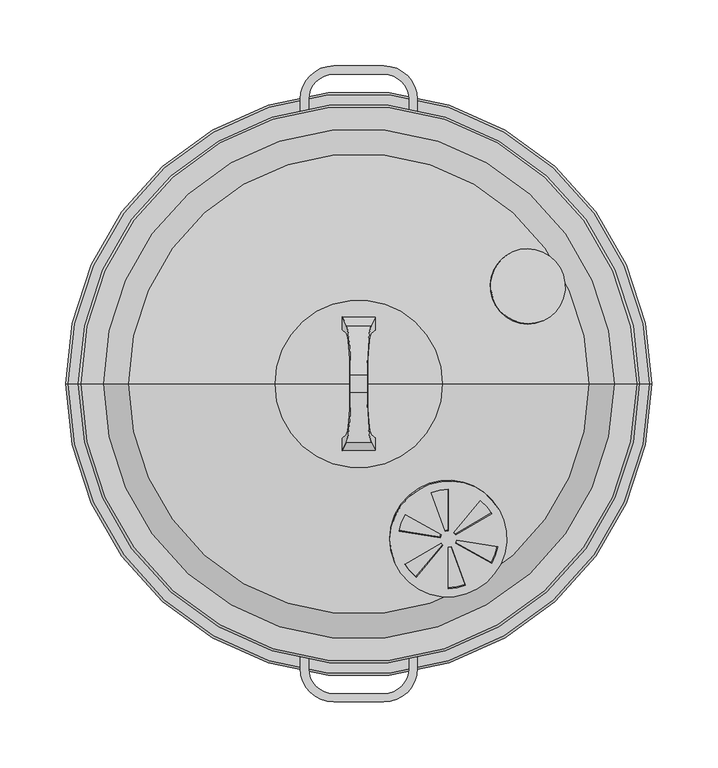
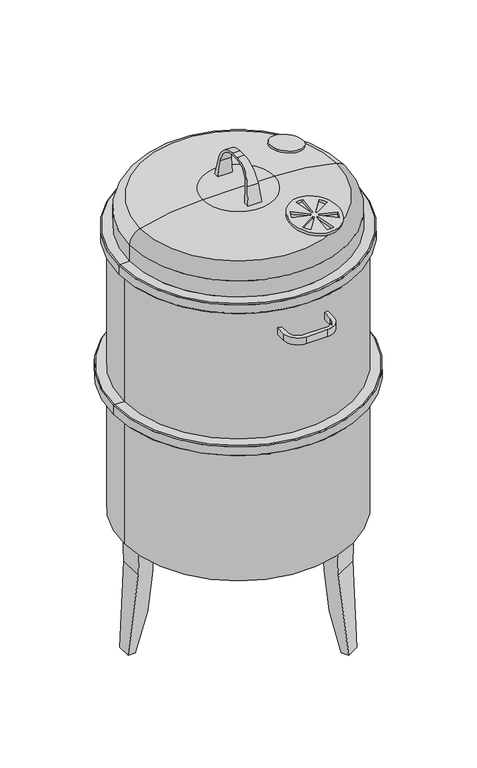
"""IFC4 building model written with IfcOpenShell, lengths in millimetres: proxy geometry, Vertical Smoker : Vertical Smoker."""

from ifc_helpers import new_model, si_unit, point, frame, frame_2d, origin, place, context, project, spatial, polyline, circle_curve, ellipse_curve, trimmed, segment, composite_curve, outline, extrude, source, transform, mapped, element, save
from ifc_brep_helpers import plane_surface, cylinder_surface, revolved_surface, advanced_brep


def specialty_equipment_ef091b00(model_context):
    return source(origin(), model_context, "Body", "SolidModel", [
        advanced_brep(
        [(197.8095352, -53.0029052, 508.4108752), (197.8095352, -53.0029052, 647.2891248), (196.2761279, -52.59203, 647.7), (196.2761279, -52.59203, 508.0), (197.8684277, -46.24203, 654.05), (197.8684277, 46.24203, 654.05), (196.2761279, 52.59203, 647.7), (196.2761279, 52.59203, 508.0), (197.8684277, 46.24203, 501.65), (197.8684277, -46.24203, 501.65), (199.4983579, 46.24203, 501.65), (199.4983579, -46.24203, 501.65), (197.9191717, 52.59203, 508.0), (197.9191717, 52.59203, 647.7), (199.4983579, 46.24203, 654.05), (199.4983579, -46.24203, 654.05)],
        [
            (0, 1),
            (1, 2),
            (2, 3),
            (3, 0),
            (2, 4, ellipse_curve(frame((0.0, 0.0, 700.29203), z_axis=(0.0, -0.7071067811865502, 0.7071067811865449), x_axis=(0.0, 0.707106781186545, 0.70710678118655)), 287.3681959, 203.2)),
            (4, 5, circle_curve(frame((0.0, 0.0, 654.05), z_axis=(0.0, 0.0, 1.0), x_axis=(0.9659258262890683, -0.2588190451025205, 0.0)), 203.2)),
            (5, 6, ellipse_curve(frame((0.0, 0.0, 700.29203), z_axis=(0.0, 0.707106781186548, 0.707106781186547), x_axis=(0.0, -0.7071067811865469, 0.7071067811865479)), 287.3681959, 203.2)),
            (6, 7),
            (7, 8, ellipse_curve(frame((0.0, 0.0, 455.40797), z_axis=(0.0, 0.707106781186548, -0.707106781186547), x_axis=(0.0, 0.707106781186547, 0.7071067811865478)), 287.3681959, 203.2)),
            (8, 9, circle_curve(frame((0.0, 0.0, 501.65), z_axis=(0.0, 0.0, -1.0), x_axis=(0.9659258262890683, -0.2588190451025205, 0.0)), 203.2)),
            (9, 3, ellipse_curve(frame((0.0, 0.0, 455.40797), z_axis=(0.0, -0.7071067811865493, -0.7071067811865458), x_axis=(0.0, -0.7071067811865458, 0.7071067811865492)), 287.3681959, 203.2)),
            (8, 10),
            (10, 11, circle_curve(frame((0.0, 0.0, 501.65), z_axis=(0.0, 0.0, -1.0), x_axis=(0.9659258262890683, -0.2588190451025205, 0.0)), 204.7875)),
            (11, 9),
            (0, 11, ellipse_curve(frame((0.0, 0.0, 455.40797), z_axis=(0.0, 0.7071067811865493, 0.7071067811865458), x_axis=(0.0, -0.7071067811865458, 0.7071067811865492)), 289.6132599, 204.7875)),
            (10, 12, ellipse_curve(frame((0.0, 0.0, 455.40797), z_axis=(0.0, -0.707106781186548, 0.707106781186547), x_axis=(0.0, 0.707106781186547, 0.7071067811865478)), 289.6132599, 204.7875)),
            (12, 13),
            (13, 14, ellipse_curve(frame((0.0, 0.0, 700.29203), z_axis=(0.0, -0.707106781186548, -0.707106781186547), x_axis=(0.0, -0.7071067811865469, 0.7071067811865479)), 289.6132599, 204.7875)),
            (14, 15, circle_curve(frame((0.0, 0.0, 654.05), z_axis=(0.0, 0.0, -1.0), x_axis=(0.9659258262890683, -0.2588190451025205, 0.0)), 204.7875)),
            (15, 1, ellipse_curve(frame((0.0, 0.0, 700.29203), z_axis=(0.0, 0.7071067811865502, -0.7071067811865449), x_axis=(0.0, 0.707106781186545, 0.70710678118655)), 289.6132599, 204.7875)),
            (4, 15),
            (14, 5),
            (13, 6),
            (12, 7),
        ],
        [
            plane_surface(frame((0.0, 0.0, 800.1), z_axis=(-0.2588190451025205, -0.9659258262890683, 0.0), x_axis=(0.9659258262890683, -0.2588190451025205, 0.0))),
            revolved_surface(polyline([(196.27612790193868, -52.592029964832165, 903.4920300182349), (196.27612790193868, -52.592029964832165, 252.20796998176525)]), (0.0, 0.0, 800.1), (0.0, 0.0, 1.0)),
            plane_surface(frame((0.0, 0.0, 501.65), z_axis=(0.0, 0.0, -1.0), x_axis=(0.9659258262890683, -0.2588190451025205, 0.0))),
            cylinder_surface(frame((0.0, 0.0, 800.1), z_axis=(0.0, 0.0, 1.0), x_axis=(0.9659258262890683, -0.2588190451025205, 0.0)), 204.7875),
            plane_surface(frame((0.0, 0.0, 654.05), z_axis=(0.0, 0.0, 1.0), x_axis=(0.9659258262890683, -0.2588190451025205, 0.0))),
            plane_surface(frame((177.8, 52.59203, 647.7), z_axis=(0.0, 0.707106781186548, 0.707106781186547), x_axis=(1.0, 0.0, 0.0))),
            plane_surface(frame((177.8, 52.59203, 508.0), z_axis=(0.0, 1.0, 0.0), x_axis=(1.0, 0.0, 0.0))),
            plane_surface(frame((177.8, 46.24203, 501.65), z_axis=(0.0, 0.707106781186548, -0.707106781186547), x_axis=(1.0, 0.0, 0.0))),
            plane_surface(frame((177.8, -53.0029052, 508.4108752), z_axis=(0.0, -0.7071067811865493, -0.7071067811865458), x_axis=(1.0, 0.0, 0.0))),
            plane_surface(frame((177.8, -46.24203, 654.05), z_axis=(0.0, -0.7071067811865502, 0.7071067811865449), x_axis=(1.0, 0.0, 0.0))),
        ],
        [
            (0, [[1, 2, 3, 4]]),
            (1, [[-3, 5, 6, 7, 8, 9, 10, 11]]),
            (2, [[-10, 12, 13, 14]]),
            (3, [[-1, 15, -13, 16, 17, 18, 19, 20]]),
            (4, [[-6, 21, -19, 22]]),
            (5, [[23, -7, -22, -18]]),
            (6, [[-23, -17, 24, -8]]),
            (7, [[-24, -16, -12, -9]]),
            (8, [[-4, -11, -14, -15]]),
            (9, [[-2, -20, -21, -5]]),
        ],
    ),
        advanced_brep(
        [(197.8095352, 53.0029052, 399.6391248), (197.8095352, 53.0029052, 260.7608752), (196.2761279, 52.59203, 260.35), (196.2761279, 52.59203, 400.05), (197.8684277, 46.24203, 254.0), (197.8684277, -46.24203, 254.0), (196.2761279, -52.59203, 260.35), (196.2761279, -52.59203, 400.05), (197.8684277, -46.24203, 406.4), (197.8684277, 46.24203, 406.4), (199.4983579, 46.24203, 254.0), (199.4983579, -46.24203, 254.0), (199.4983579, 46.24203, 406.4), (199.4983579, -46.24203, 406.4), (197.9191717, -52.59203, 400.05), (197.9191717, -52.59203, 260.35)],
        [
            (0, 1),
            (1, 2),
            (2, 3),
            (3, 0),
            (2, 4, ellipse_curve(frame((0.0, 0.0, 207.75797), z_axis=(0.0, 0.7071067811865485, -0.7071067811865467), x_axis=(0.0, 0.7071067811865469, 0.7071067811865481)), 287.3681959, 203.2)),
            (4, 5, circle_curve(frame((0.0, 0.0, 254.0), z_axis=(0.0, 0.0, -1.0), x_axis=(0.9659258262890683, -0.2588190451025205, 0.0)), 203.2)),
            (5, 6, ellipse_curve(frame((0.0, 0.0, 207.75797), z_axis=(0.0, -0.707106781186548, -0.7071067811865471), x_axis=(0.0, -0.7071067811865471, 0.7071067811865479)), 287.3681959, 203.2)),
            (6, 7),
            (7, 8, ellipse_curve(frame((0.0, 0.0, 452.64203), z_axis=(0.0, -0.7071067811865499, 0.7071067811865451), x_axis=(0.0, 0.7071067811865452, 0.7071067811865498)), 287.3681959, 203.2)),
            (8, 9, circle_curve(frame((0.0, 0.0, 406.4), z_axis=(0.0, 0.0, 1.0), x_axis=(0.9659258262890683, -0.2588190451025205, 0.0)), 203.2)),
            (9, 3, ellipse_curve(frame((0.0, 0.0, 452.64203), z_axis=(0.0, 0.7071067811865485, 0.7071067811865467), x_axis=(0.0, -0.7071067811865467, 0.7071067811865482)), 287.3681959, 203.2)),
            (4, 10),
            (10, 11, circle_curve(frame((0.0, 0.0, 254.0), z_axis=(0.0, 0.0, -1.0), x_axis=(0.9659258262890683, -0.2588190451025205, 0.0)), 204.7875)),
            (11, 5),
            (0, 12, ellipse_curve(frame((0.0, 0.0, 452.64203), z_axis=(0.0, -0.7071067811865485, -0.7071067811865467), x_axis=(0.0, -0.7071067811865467, 0.7071067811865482)), 289.6132599, 204.7875)),
            (12, 13, circle_curve(frame((0.0, 0.0, 406.4), z_axis=(0.0, 0.0, -1.0), x_axis=(0.9659258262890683, -0.2588190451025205, 0.0)), 204.7875)),
            (13, 14, ellipse_curve(frame((0.0, 0.0, 452.64203), z_axis=(0.0, 0.7071067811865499, -0.7071067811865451), x_axis=(0.0, 0.7071067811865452, 0.7071067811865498)), 289.6132599, 204.7875)),
            (14, 15),
            (15, 11, ellipse_curve(frame((0.0, 0.0, 207.75797), z_axis=(0.0, 0.707106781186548, 0.7071067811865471), x_axis=(0.0, -0.7071067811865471, 0.7071067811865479)), 289.6132599, 204.7875)),
            (10, 1, ellipse_curve(frame((0.0, 0.0, 207.75797), z_axis=(0.0, -0.7071067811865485, 0.7071067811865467), x_axis=(0.0, 0.7071067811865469, 0.7071067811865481)), 289.6132599, 204.7875)),
            (8, 13),
            (12, 9),
            (15, 6),
            (14, 7),
        ],
        [
            plane_surface(frame((0.0, 0.0, 800.1), z_axis=(-0.2588190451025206, 0.9659258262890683, 0.0), x_axis=(0.9659258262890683, 0.2588190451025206, 0.0))),
            revolved_surface(polyline([(196.27612790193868, -52.592029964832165, 655.8420300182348), (196.27612790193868, -52.592029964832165, 4.557969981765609)]), (0.0, 0.0, 800.1), (0.0, 0.0, 1.0)),
            plane_surface(frame((0.0, 0.0, 254.0), z_axis=(0.0, 0.0, -1.0), x_axis=(0.9659258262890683, -0.2588190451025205, 0.0))),
            cylinder_surface(frame((0.0, 0.0, 800.1), z_axis=(0.0, 0.0, 1.0), x_axis=(0.9659258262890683, -0.2588190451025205, 0.0)), 204.7875),
            plane_surface(frame((0.0, 0.0, 406.4), z_axis=(0.0, 0.0, 1.0), x_axis=(0.9659258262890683, -0.2588190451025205, 0.0))),
            plane_surface(frame((177.8, 53.0029052, 399.6391248), z_axis=(0.0, 0.7071067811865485, 0.7071067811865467), x_axis=(1.0, 0.0, 0.0))),
            plane_surface(frame((177.8, 46.24203, 254.0), z_axis=(0.0, 0.7071067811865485, -0.7071067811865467), x_axis=(1.0, 0.0, 0.0))),
            plane_surface(frame((177.8, -52.59203, 260.35), z_axis=(0.0, -0.707106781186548, -0.7071067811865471), x_axis=(1.0, 0.0, 0.0))),
            plane_surface(frame((177.8, -52.59203, 400.05), z_axis=(0.0, -1.0, 0.0), x_axis=(1.0, 0.0, 0.0))),
            plane_surface(frame((177.8, -46.24203, 406.4), z_axis=(0.0, -0.7071067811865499, 0.7071067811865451), x_axis=(1.0, 0.0, 0.0))),
        ],
        [
            (0, [[1, 2, 3, 4]]),
            (1, [[-3, 5, 6, 7, 8, 9, 10, 11]]),
            (2, [[-6, 12, 13, 14]]),
            (3, [[-1, 15, 16, 17, 18, 19, -13, 20]]),
            (4, [[-10, 21, -16, 22]]),
            (5, [[-4, -11, -22, -15]]),
            (6, [[-2, -20, -12, -5]]),
            (7, [[23, -7, -14, -19]]),
            (8, [[-23, -18, 24, -8]]),
            (9, [[-24, -17, -21, -9]]),
        ],
    ),
        advanced_brep(
        [(-165.1, -25.4, 203.2), (-165.1, 25.4, 203.2), (-190.5, 25.4, 203.2), (-190.5, -25.4, 203.2), (-190.5, 22.225, 152.4), (-190.5, -22.225, 152.4), (-203.2, 12.7, 0.0), (-203.2, -12.7, 0.0), (-190.5, 12.7, 0.0), (-190.5, -12.7, 0.0), (-165.1, 22.225, 152.4), (-165.1, -22.225, 152.4)],
        [
            (0, 1),
            (1, 2),
            (2, 3),
            (3, 0),
            (2, 4),
            (4, 5),
            (5, 3),
            (4, 6, ellipse_curve(frame((-1111.25, 22.225, 152.4), z_axis=(0.0, 0.998052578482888, -0.06237828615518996), x_axis=(0.0, 0.06237828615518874, 0.998052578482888)), 922.5465871, 920.75)),
            (6, 7),
            (7, 5, ellipse_curve(frame((-1111.25, -22.225, 152.4), z_axis=(0.0, -0.998052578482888, -0.06237828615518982), x_axis=(0.0, 0.06237828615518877, -0.9980525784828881)), 922.5465871, 920.75)),
            (6, 8),
            (8, 9),
            (9, 7),
            (8, 10, ellipse_curve(frame((-635.0, 22.225, 152.4), z_axis=(0.0, -0.998052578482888, 0.06237828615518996), x_axis=(0.0, -0.06237828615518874, -0.998052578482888)), 470.8168789, 469.9)),
            (10, 11),
            (11, 9, ellipse_curve(frame((-635.0, -22.225, 152.4), z_axis=(0.0, 0.998052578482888, 0.06237828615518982), x_axis=(0.0, -0.06237828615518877, 0.9980525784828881)), 470.8168789, 469.9)),
            (0, 11),
            (10, 1),
        ],
        [
            plane_surface(frame((-165.1, -25.4, 203.2), z_axis=(0.0, 0.0, 1.0), x_axis=(0.0, 1.0, 0.0))),
            plane_surface(frame((-190.5, -25.4, 203.2), z_axis=(-1.0, 0.0, 0.0), x_axis=(0.0, 1.0, 0.0))),
            revolved_surface(polyline([(-2032.0, 79.77187500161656, 152.4), (-2032.0, -79.77187500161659, 152.4)]), (-1111.25, 25.4, 152.4), (0.0, 1.0, 0.0)),
            plane_surface(frame((-203.2, -25.4, 0.0), z_axis=(0.0, 0.0, -1.0), x_axis=(0.0, 1.0, 0.0))),
            cylinder_surface(frame((-635.0, 25.4, 152.4), z_axis=(0.0, -1.0, 0.0), x_axis=(-1.0, 0.0, 0.0)), 469.9),
            plane_surface(frame((-165.1, -25.4, 152.4), z_axis=(1.0, 0.0, 0.0), x_axis=(0.0, 1.0, 0.0))),
            plane_surface(frame((-152.4, -12.7, 0.0), z_axis=(0.0, -0.998052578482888, -0.06237828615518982), x_axis=(-1.0, 0.0, 0.0))),
            plane_surface(frame((-152.4, 25.4, 203.2), z_axis=(0.0, 0.998052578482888, -0.06237828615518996), x_axis=(-1.0, 0.0, 0.0))),
        ],
        [
            (0, [[1, 2, 3, 4]]),
            (1, [[-3, 5, 6, 7]]),
            (2, [[-6, 8, 9, 10]]),
            (3, [[-9, 11, 12, 13]]),
            (4, [[-12, 14, 15, 16]]),
            (5, [[-1, 17, -15, 18]]),
            (6, [[-4, -7, -10, -13, -16, -17]]),
            (7, [[-2, -18, -14, -11, -8, -5]]),
        ],
    ),
        advanced_brep(
        [(-152.4, 0.0, 203.2), (152.4, 0.0, 203.2), (101.6, 0.0, 152.4), (-101.6, 0.0, 152.4), (0.0, 0.0, 800.1), (63.5, 0.0, 800.1), (-63.5, 0.0, 800.1), (0.0, 0.0, 152.4), (-203.2, 0.0, 203.2), (60.644514, 193.9393795, 203.2), (78.8060797, 187.296134, 203.2), (122.8001702, 161.896134, 203.2), (137.6341724, 149.4893795, 203.2), (203.2, 0.0, 203.2), (137.6341724, -149.4893795, 203.2), (122.8001702, -161.896134, 203.2), (78.8060797, -187.296134, 203.2), (60.644514, -193.9393795, 203.2), (-203.2, 0.0, 450.85), (203.2, 0.0, 450.85), (-220.6625, 0.0, 450.85), (220.6625, 0.0, 450.85), (-222.25, 0.0, 452.4375), (222.25, 0.0, 452.4375), (-222.25, 0.0, 468.3125), (222.25, 0.0, 468.3125), (-220.6625, 0.0, 469.9), (220.6625, 0.0, 469.9), (-203.2, 0.0, 469.9), (203.2, 0.0, 469.9), (-203.2, 0.0, 711.2), (203.2, 0.0, 711.2), (44.45, 198.2786864, 673.1), (38.1, 199.5961673, 673.1), (38.1, 199.5961673, 660.4), (44.45, 198.2786864, 660.4), (-38.1, 199.5961673, 673.1), (-44.45, 198.2786864, 673.1), (-44.45, 198.2786864, 660.4), (-38.1, 199.5961673, 660.4), (-44.45, -198.2786864, 673.1), (-38.1, -199.5961673, 673.1), (-38.1, -199.5961673, 660.4), (-44.45, -198.2786864, 660.4), (38.1, -199.5961673, 673.1), (44.45, -198.2786864, 673.1), (44.45, -198.2786864, 660.4), (38.1, -199.5961673, 660.4), (-211.1375, 0.0, 711.2), (211.1375, 0.0, 711.2), (-212.725, 0.0, 712.7875), (212.725, 0.0, 712.7875), (-212.725, 0.0, 728.6625), (212.725, 0.0, 728.6625), (-211.1375, 0.0, 730.25), (211.1375, 0.0, 730.25), (-193.675, 0.0, 730.25), (193.675, 0.0, 730.25), (-193.675, 0.0, 760.6397075), (193.675, 0.0, 760.6397075), (-174.9715184, 0.0, 785.1410675), (174.9715184, 0.0, 785.1410675), (19.05, 234.95, 673.1), (38.1, 215.9, 673.1), (44.45, 215.9, 673.1), (19.05, 241.3, 673.1), (-19.05, 241.3, 673.1), (-44.45, 215.9, 673.1), (-38.1, 215.9, 673.1), (-19.05, 234.95, 673.1), (19.05, -234.95, 673.1), (-19.05, -234.95, 673.1), (-38.1, -215.9, 673.1), (-44.45, -215.9, 673.1), (-19.05, -241.3, 673.1), (19.05, -241.3, 673.1), (44.45, -215.9, 673.1), (38.1, -215.9, 673.1), (19.05, 234.95, 660.4), (-19.05, 234.95, 660.4), (-38.1, 215.9, 660.4), (-44.45, 215.9, 660.4), (-19.05, 241.3, 660.4), (19.05, 241.3, 660.4), (44.45, 215.9, 660.4), (38.1, 215.9, 660.4), (19.05, -234.95, 660.4), (38.1, -215.9, 660.4), (44.45, -215.9, 660.4), (19.05, -241.3, 660.4), (-19.05, -241.3, 660.4), (-44.45, -215.9, 660.4), (-38.1, -215.9, 660.4), (-19.05, -234.95, 660.4)],
        [
            (0, 1, circle_curve(frame((0.0, 0.0, 203.2), z_axis=(0.0, 0.0, -1.0), x_axis=(1.0, 0.0, 0.0)), 152.4)),
            (1, 2, circle_curve(frame((101.6, 0.0, 203.2), z_axis=(0.0, 1.0, 0.0), x_axis=(1.0, 0.0, 0.0)), 50.8)),
            (2, 3, circle_curve(frame((0.0, 0.0, 152.4), z_axis=(0.0, 0.0, 1.0), x_axis=(1.0, 0.0, 0.0)), 101.6)),
            (3, 0, circle_curve(frame((-101.6, 0.0, 203.2), z_axis=(0.0, 1.0, 0.0), x_axis=(-1.0, 0.0, 0.0)), 50.8)),
            (1, 0, circle_curve(frame((0.0, 0.0, 203.2), z_axis=(0.0, 0.0, -1.0), x_axis=(1.0, 0.0, 0.0)), 152.4)),
            (3, 2, circle_curve(frame((0.0, 0.0, 152.4), z_axis=(0.0, 0.0, 1.0), x_axis=(1.0, 0.0, 0.0)), 101.6)),
            (4, 5),
            (5, 6, circle_curve(frame((0.0, 0.0, 800.1), z_axis=(0.0, 0.0, 1.0), x_axis=(1.0, 0.0, 0.0)), 63.5)),
            (6, 4),
            (6, 5, circle_curve(frame((0.0, 0.0, 800.1), z_axis=(0.0, 0.0, 1.0), x_axis=(1.0, 0.0, 0.0)), 63.5)),
            (2, 7),
            (7, 3),
            (0, 8),
            (8, 9, circle_curve(frame((0.0, 0.0, 203.2), z_axis=(0.0, 0.0, -1.0), x_axis=(1.0, 0.0, 0.0)), 203.2)),
            (9, 10, circle_curve(frame((0.0, 0.0, 203.2), z_axis=(0.0, 0.0, -1.0), x_axis=(1.0, 0.0, 0.0)), 203.2)),
            (10, 11, circle_curve(frame((0.0, 0.0, 203.2), z_axis=(0.0, 0.0, -1.0), x_axis=(1.0, 0.0, 0.0)), 203.2)),
            (11, 12, circle_curve(frame((0.0, 0.0, 203.2), z_axis=(0.0, 0.0, -1.0), x_axis=(1.0, 0.0, 0.0)), 203.2)),
            (12, 13, circle_curve(frame((0.0, 0.0, 203.2), z_axis=(0.0, 0.0, -1.0), x_axis=(1.0, 0.0, 0.0)), 203.2)),
            (13, 1),
            (13, 14, circle_curve(frame((0.0, 0.0, 203.2), z_axis=(0.0, 0.0, -1.0), x_axis=(1.0, 0.0, 0.0)), 203.2)),
            (14, 15, circle_curve(frame((0.0, 0.0, 203.2), z_axis=(0.0, 0.0, -1.0), x_axis=(1.0, 0.0, 0.0)), 203.2)),
            (15, 16, circle_curve(frame((0.0, 0.0, 203.2), z_axis=(0.0, 0.0, -1.0), x_axis=(1.0, 0.0, 0.0)), 203.2)),
            (16, 17, circle_curve(frame((0.0, 0.0, 203.2), z_axis=(0.0, 0.0, -1.0), x_axis=(1.0, 0.0, 0.0)), 203.2)),
            (17, 8, circle_curve(frame((0.0, 0.0, 203.2), z_axis=(0.0, 0.0, -1.0), x_axis=(1.0, 0.0, 0.0)), 203.2)),
            (18, 19, circle_curve(frame((0.0, 0.0, 450.85), z_axis=(0.0, 0.0, -1.0), x_axis=(1.0, 0.0, 0.0)), 203.2)),
            (19, 13),
            (8, 18),
            (19, 18, circle_curve(frame((0.0, 0.0, 450.85), z_axis=(0.0, 0.0, -1.0), x_axis=(1.0, 0.0, 0.0)), 203.2)),
            (18, 20),
            (20, 21, circle_curve(frame((0.0, 0.0, 450.85), z_axis=(0.0, 0.0, -1.0), x_axis=(1.0, 0.0, 0.0)), 220.6625)),
            (21, 19),
            (21, 20, circle_curve(frame((0.0, 0.0, 450.85), z_axis=(0.0, 0.0, -1.0), x_axis=(1.0, 0.0, 0.0)), 220.6625)),
            (20, 22),
            (22, 23, circle_curve(frame((0.0, 0.0, 452.4375), z_axis=(0.0, 0.0, -1.0), x_axis=(1.0, 0.0, 0.0)), 222.25)),
            (23, 21),
            (23, 22, circle_curve(frame((0.0, 0.0, 452.4375), z_axis=(0.0, 0.0, -1.0), x_axis=(1.0, 0.0, 0.0)), 222.25)),
            (22, 24),
            (24, 25, circle_curve(frame((0.0, 0.0, 468.3125), z_axis=(0.0, 0.0, -1.0), x_axis=(1.0, 0.0, 0.0)), 222.25)),
            (25, 23),
            (25, 24, circle_curve(frame((0.0, 0.0, 468.3125), z_axis=(0.0, 0.0, -1.0), x_axis=(1.0, 0.0, 0.0)), 222.25)),
            (24, 26),
            (26, 27, circle_curve(frame((0.0, 0.0, 469.9), z_axis=(0.0, 0.0, -1.0), x_axis=(1.0, 0.0, 0.0)), 220.6625)),
            (27, 25),
            (27, 26, circle_curve(frame((0.0, 0.0, 469.9), z_axis=(0.0, 0.0, -1.0), x_axis=(1.0, 0.0, 0.0)), 220.6625)),
            (26, 28),
            (28, 29, circle_curve(frame((0.0, 0.0, 469.9), z_axis=(0.0, 0.0, -1.0), x_axis=(1.0, 0.0, 0.0)), 203.2)),
            (29, 27),
            (29, 28, circle_curve(frame((0.0, 0.0, 469.9), z_axis=(0.0, 0.0, -1.0), x_axis=(1.0, 0.0, 0.0)), 203.2)),
            (28, 30),
            (30, 31, circle_curve(frame((0.0, 0.0, 711.2), z_axis=(0.0, 0.0, -1.0), x_axis=(1.0, 0.0, 0.0)), 203.2)),
            (31, 29),
            (32, 33, circle_curve(frame((0.0, 0.0, 673.1), z_axis=(0.0, 0.0, 1.0), x_axis=(1.0, 0.0, 0.0)), 203.2)),
            (33, 34),
            (34, 35, circle_curve(frame((0.0, 0.0, 660.4), z_axis=(0.0, 0.0, -1.0), x_axis=(1.0, 0.0, 0.0)), 203.2)),
            (35, 32),
            (36, 37, circle_curve(frame((0.0, 0.0, 673.1), z_axis=(0.0, 0.0, 1.0), x_axis=(1.0, 0.0, 0.0)), 203.2)),
            (37, 38),
            (38, 39, circle_curve(frame((0.0, 0.0, 660.4), z_axis=(0.0, 0.0, -1.0), x_axis=(1.0, 0.0, 0.0)), 203.2)),
            (39, 36),
            (31, 30, circle_curve(frame((0.0, 0.0, 711.2), z_axis=(0.0, 0.0, -1.0), x_axis=(1.0, 0.0, 0.0)), 203.2)),
            (40, 41, circle_curve(frame((0.0, 0.0, 673.1), z_axis=(0.0, 0.0, 1.0), x_axis=(1.0, 0.0, 0.0)), 203.2)),
            (41, 42),
            (42, 43, circle_curve(frame((0.0, 0.0, 660.4), z_axis=(0.0, 0.0, -1.0), x_axis=(1.0, 0.0, 0.0)), 203.2)),
            (43, 40),
            (44, 45, circle_curve(frame((0.0, 0.0, 673.1), z_axis=(0.0, 0.0, 1.0), x_axis=(1.0, 0.0, 0.0)), 203.2)),
            (45, 46),
            (46, 47, circle_curve(frame((0.0, 0.0, 660.4), z_axis=(0.0, 0.0, -1.0), x_axis=(1.0, 0.0, 0.0)), 203.2)),
            (47, 44),
            (30, 48),
            (48, 49, circle_curve(frame((0.0, 0.0, 711.2), z_axis=(0.0, 0.0, -1.0), x_axis=(1.0, 0.0, 0.0)), 211.1375)),
            (49, 31),
            (49, 48, circle_curve(frame((0.0, 0.0, 711.2), z_axis=(0.0, 0.0, -1.0), x_axis=(1.0, 0.0, 0.0)), 211.1375)),
            (48, 50),
            (50, 51, circle_curve(frame((0.0, 0.0, 712.7875), z_axis=(0.0, 0.0, -1.0), x_axis=(1.0, 0.0, 0.0)), 212.725)),
            (51, 49),
            (51, 50, circle_curve(frame((0.0, 0.0, 712.7875), z_axis=(0.0, 0.0, -1.0), x_axis=(1.0, 0.0, 0.0)), 212.725)),
            (50, 52),
            (52, 53, circle_curve(frame((0.0, 0.0, 728.6625), z_axis=(0.0, 0.0, -1.0), x_axis=(1.0, 0.0, 0.0)), 212.725)),
            (53, 51),
            (53, 52, circle_curve(frame((0.0, 0.0, 728.6625), z_axis=(0.0, 0.0, -1.0), x_axis=(1.0, 0.0, 0.0)), 212.725)),
            (52, 54),
            (54, 55, circle_curve(frame((0.0, 0.0, 730.25), z_axis=(0.0, 0.0, -1.0), x_axis=(1.0, 0.0, 0.0)), 211.1375)),
            (55, 53),
            (55, 54, circle_curve(frame((0.0, 0.0, 730.25), z_axis=(0.0, 0.0, -1.0), x_axis=(1.0, 0.0, 0.0)), 211.1375)),
            (54, 56),
            (56, 57, circle_curve(frame((0.0, 0.0, 730.25), z_axis=(0.0, 0.0, -1.0), x_axis=(1.0, 0.0, 0.0)), 193.675)),
            (57, 55),
            (57, 56, circle_curve(frame((0.0, 0.0, 730.25), z_axis=(0.0, 0.0, -1.0), x_axis=(1.0, 0.0, 0.0)), 193.675)),
            (56, 58),
            (58, 59, circle_curve(frame((0.0, 0.0, 760.6397075), z_axis=(0.0, 0.0, -1.0), x_axis=(1.0, 0.0, 0.0)), 193.675)),
            (59, 57),
            (59, 58, circle_curve(frame((0.0, 0.0, 760.6397075), z_axis=(0.0, 0.0, -1.0), x_axis=(1.0, 0.0, 0.0)), 193.675)),
            (58, 60, circle_curve(frame((-168.275, 0.0, 760.6397075), z_axis=(0.0, 1.0, 0.0), x_axis=(-1.0, 0.0, 0.0)), 25.4)),
            (60, 61, circle_curve(frame((0.0, 0.0, 785.1410675), z_axis=(0.0, 0.0, -1.0), x_axis=(1.0, 0.0, 0.0)), 174.9715184)),
            (61, 59, circle_curve(frame((168.275, 0.0, 760.6397075), z_axis=(0.0, 1.0, 0.0), x_axis=(1.0, 0.0, 0.0)), 25.4)),
            (61, 60, circle_curve(frame((0.0, 0.0, 785.1410675), z_axis=(0.0, 0.0, -1.0), x_axis=(1.0, 0.0, 0.0)), 174.9715184)),
            (5, 61, circle_curve(frame((63.5, 0.0, 377.2867724), z_axis=(0.0, 1.0, 0.0), x_axis=(1.0, 0.0, 0.0)), 422.8132276)),
            (60, 6, circle_curve(frame((-63.5, 0.0, 377.2867724), z_axis=(0.0, 1.0, 0.0), x_axis=(-1.0, 0.0, 0.0)), 422.8132276)),
            (62, 63, circle_curve(frame((19.05, 215.9, 673.1), z_axis=(0.0, 0.0, -1.0), x_axis=(1.0, 0.0, 0.0)), 19.05)),
            (63, 33),
            (32, 64),
            (64, 65, circle_curve(frame((19.05, 215.9, 673.1), z_axis=(0.0, 0.0, 1.0), x_axis=(1.0, 0.0, 0.0)), 25.4)),
            (65, 66),
            (66, 67, circle_curve(frame((-19.05, 215.9, 673.1), z_axis=(0.0, 0.0, 1.0), x_axis=(1.0, 0.0, 0.0)), 25.4)),
            (67, 37),
            (36, 68),
            (68, 69, circle_curve(frame((-19.05, 215.9, 673.1), z_axis=(0.0, 0.0, -1.0), x_axis=(1.0, 0.0, 0.0)), 19.05)),
            (69, 62),
            (70, 71),
            (71, 72, circle_curve(frame((-19.05, -215.9, 673.1), z_axis=(0.0, 0.0, -1.0), x_axis=(1.0, 0.0, 0.0)), 19.05)),
            (72, 41),
            (40, 73),
            (73, 74, circle_curve(frame((-19.05, -215.9, 673.1), z_axis=(0.0, 0.0, 1.0), x_axis=(1.0, 0.0, 0.0)), 25.4)),
            (74, 75),
            (75, 76, circle_curve(frame((19.05, -215.9, 673.1), z_axis=(0.0, 0.0, 1.0), x_axis=(1.0, 0.0, 0.0)), 25.4)),
            (76, 45),
            (44, 77),
            (77, 70, circle_curve(frame((19.05, -215.9, 673.1), z_axis=(0.0, 0.0, -1.0), x_axis=(1.0, 0.0, 0.0)), 19.05)),
            (78, 79),
            (79, 80, circle_curve(frame((-19.05, 215.9, 660.4), z_axis=(0.0, 0.0, 1.0), x_axis=(1.0, 0.0, 0.0)), 19.05)),
            (80, 39),
            (38, 81),
            (81, 82, circle_curve(frame((-19.05, 215.9, 660.4), z_axis=(0.0, 0.0, -1.0), x_axis=(1.0, 0.0, 0.0)), 25.4)),
            (82, 83),
            (83, 84, circle_curve(frame((19.05, 215.9, 660.4), z_axis=(0.0, 0.0, -1.0), x_axis=(1.0, 0.0, 0.0)), 25.4)),
            (84, 35),
            (34, 85),
            (85, 78, circle_curve(frame((19.05, 215.9, 660.4), z_axis=(0.0, 0.0, 1.0), x_axis=(1.0, 0.0, 0.0)), 19.05)),
            (86, 87, circle_curve(frame((19.05, -215.9, 660.4), z_axis=(0.0, 0.0, 1.0), x_axis=(1.0, 0.0, 0.0)), 19.05)),
            (87, 47),
            (46, 88),
            (88, 89, circle_curve(frame((19.05, -215.9, 660.4), z_axis=(0.0, 0.0, -1.0), x_axis=(1.0, 0.0, 0.0)), 25.4)),
            (89, 90),
            (90, 91, circle_curve(frame((-19.05, -215.9, 660.4), z_axis=(0.0, 0.0, -1.0), x_axis=(1.0, 0.0, 0.0)), 25.4)),
            (91, 43),
            (42, 92),
            (92, 93, circle_curve(frame((-19.05, -215.9, 660.4), z_axis=(0.0, 0.0, 1.0), x_axis=(1.0, 0.0, 0.0)), 19.05)),
            (93, 86),
            (62, 78),
            (85, 63),
            (84, 64),
            (83, 65),
            (82, 66),
            (81, 67),
            (80, 68),
            (79, 69),
            (70, 86),
            (93, 71),
            (92, 72),
            (91, 73),
            (90, 74),
            (89, 75),
            (88, 76),
            (87, 77),
        ],
        [
            revolved_surface(trimmed(ellipse_curve(frame((101.6, 0.0, 203.2), z_axis=(0.0, -1.0, 0.0), x_axis=(1.0, 0.0, 0.0)), 50.8, 50.8), [point((101.6, 0.0, 152.4))], [point((152.4, 0.0, 203.2))], True, "CARTESIAN"), (0.0, 0.0, 800.1), (0.0, 0.0, 1.0)),
            plane_surface(frame((0.0, 0.0, 800.1), z_axis=(0.0, 0.0, 1.0), x_axis=(1.0, 0.0, 0.0))),
            plane_surface(frame((0.0, 0.0, 152.4), z_axis=(0.0, 0.0, -1.0), x_axis=(1.0, 0.0, 0.0))),
            plane_surface(frame((0.0, 0.0, 203.2), z_axis=(0.0, 0.0, -1.0), x_axis=(1.0, 0.0, 0.0))),
            cylinder_surface(frame((0.0, 0.0, 800.1), z_axis=(0.0, 0.0, 1.0), x_axis=(1.0, 0.0, 0.0)), 203.2),
            plane_surface(frame((0.0, 0.0, 450.85), z_axis=(0.0, 0.0, -1.0), x_axis=(1.0, 0.0, 0.0))),
            revolved_surface(polyline([(220.6625, 0.0, 450.85), (222.25, 0.0, 452.4375)]), (0.0, 0.0, 800.1), (0.0, 0.0, 1.0)),
            cylinder_surface(frame((0.0, 0.0, 800.1), z_axis=(0.0, 0.0, 1.0), x_axis=(1.0, 0.0, 0.0)), 222.25),
            revolved_surface(polyline([(222.25, 0.0, 468.3125), (220.6625, 0.0, 469.9)]), (0.0, 0.0, 800.1), (0.0, 0.0, 1.0)),
            plane_surface(frame((0.0, 0.0, 469.9), z_axis=(0.0, 0.0, 1.0), x_axis=(1.0, 0.0, 0.0))),
            plane_surface(frame((0.0, 0.0, 711.2), z_axis=(0.0, 0.0, -1.0), x_axis=(1.0, 0.0, 0.0))),
            revolved_surface(polyline([(211.1375, 0.0, 711.2), (212.725, 0.0, 712.7875)]), (0.0, 0.0, 800.1), (0.0, 0.0, 1.0)),
            cylinder_surface(frame((0.0, 0.0, 800.1), z_axis=(0.0, 0.0, 1.0), x_axis=(1.0, 0.0, 0.0)), 212.725),
            revolved_surface(polyline([(212.725, 0.0, 728.6625), (211.1375, 0.0, 730.25)]), (0.0, 0.0, 800.1), (0.0, 0.0, 1.0)),
            plane_surface(frame((0.0, 0.0, 730.25), z_axis=(0.0, 0.0, 1.0), x_axis=(1.0, 0.0, 0.0))),
            cylinder_surface(frame((0.0, 0.0, 800.1), z_axis=(0.0, 0.0, 1.0), x_axis=(1.0, 0.0, 0.0)), 193.675),
            revolved_surface(trimmed(ellipse_curve(frame((168.275, 0.0, 760.6397075), z_axis=(0.0, -1.0, 0.0), x_axis=(1.0, 0.0, 0.0)), 25.4, 25.4), [point((193.675, 0.0, 760.6397075))], [point((174.9715184, 0.0, 785.1410675))], True, "CARTESIAN"), (0.0, 0.0, 800.1), (0.0, 0.0, 1.0)),
            revolved_surface(trimmed(ellipse_curve(frame((63.5, 0.0, 377.2867724), z_axis=(0.0, -1.0, 0.0), x_axis=(1.0, 0.0, 0.0)), 422.8132276, 422.8132276), [point((174.9715184, 0.0, 785.1410675))], [point((63.5, 0.0, 800.1))], True, "CARTESIAN"), (0.0, 0.0, 800.1), (0.0, 0.0, 1.0)),
            plane_surface(frame((38.1, 215.9, 673.1), z_axis=(0.0, 0.0, 1.0), x_axis=(0.0, -1.0, 0.0))),
            plane_surface(frame((38.1, 215.9, 660.4), z_axis=(0.0, 0.0, -1.0), x_axis=(0.0, 1.0, 0.0))),
            revolved_surface(polyline([(38.1, 215.9, 660.4), (38.1, 215.9, 673.1)]), (19.05, 215.9, 660.4), (0.0, 0.0, -1.0)),
            plane_surface(frame((38.1, 215.9, 673.1), z_axis=(-1.0, 0.0, 0.0), x_axis=(0.0, 0.0, -1.0))),
            plane_surface(frame((44.45, 190.5, 673.1), z_axis=(1.0, 0.0, 0.0), x_axis=(0.0, 0.0, -1.0))),
            cylinder_surface(frame((19.05, 215.9, 660.4), z_axis=(0.0, 0.0, 1.0), x_axis=(1.0, 0.0, 0.0)), 25.4),
            plane_surface(frame((19.05, 241.3, 673.1), z_axis=(0.0, 1.0, 0.0), x_axis=(0.0, 0.0, -1.0))),
            cylinder_surface(frame((-19.05, 215.9, 660.4), z_axis=(0.0, 0.0, 1.0), x_axis=(1.0, 0.0, 0.0)), 25.4),
            plane_surface(frame((-44.45, 215.9, 673.1), z_axis=(-1.0, 0.0, 0.0), x_axis=(0.0, 0.0, -1.0))),
            plane_surface(frame((-38.1, 190.5, 673.1), z_axis=(1.0, 0.0, 0.0), x_axis=(0.0, 0.0, -1.0))),
            revolved_surface(polyline([(0.0, 215.9, 660.4), (0.0, 215.9, 673.1)]), (-19.05, 215.9, 660.4), (0.0, 0.0, -1.0)),
            plane_surface(frame((-19.05, 234.95, 673.1), z_axis=(0.0, -1.0, 0.0), x_axis=(0.0, 0.0, -1.0))),
            plane_surface(frame((19.05, -234.95, 673.1), z_axis=(0.0, 1.0, 0.0), x_axis=(0.0, 0.0, -1.0))),
            revolved_surface(polyline([(0.0, -215.9, 660.4), (0.0, -215.9, 673.1)]), (-19.05, -215.9, 660.4), (0.0, 0.0, -1.0)),
            plane_surface(frame((-38.1, -215.9, 673.1), z_axis=(1.0, 0.0, 0.0), x_axis=(0.0, 0.0, -1.0))),
            plane_surface(frame((-44.45, -190.5, 673.1), z_axis=(-1.0, 0.0, 0.0), x_axis=(0.0, 0.0, -1.0))),
            cylinder_surface(frame((-19.05, -215.9, 660.4), z_axis=(0.0, 0.0, 1.0), x_axis=(1.0, 0.0, 0.0)), 25.4),
            plane_surface(frame((-19.05, -241.3, 673.1), z_axis=(0.0, -1.0, 0.0), x_axis=(0.0, 0.0, -1.0))),
            cylinder_surface(frame((19.05, -215.9, 660.4), z_axis=(0.0, 0.0, 1.0), x_axis=(1.0, 0.0, 0.0)), 25.4),
            plane_surface(frame((44.45, -215.9, 673.1), z_axis=(1.0, 0.0, 0.0), x_axis=(0.0, 0.0, -1.0))),
            plane_surface(frame((38.1, -190.5, 673.1), z_axis=(-1.0, 0.0, 0.0), x_axis=(0.0, 0.0, -1.0))),
            revolved_surface(polyline([(38.1, -215.9, 660.4), (38.1, -215.9, 673.1)]), (19.05, -215.9, 660.4), (0.0, 0.0, -1.0)),
        ],
        [
            (0, [[1, 2, 3, 4]]),
            (0, [[-2, 5, -4, 6]]),
            (1, [[7, 8, 9]]),
            (1, [[-7, -9, 10]]),
            (2, [[-3, 11, 12]]),
            (2, [[-6, -12, -11]]),
            (3, [[-1, 13, 14, 15, 16, 17, 18, 19]]),
            (3, [[-5, -19, 20, 21, 22, 23, 24, -13]]),
            (4, [[25, 26, -18, -17, -16, -15, -14, 27]]),
            (4, [[-26, 28, -27, -24, -23, -22, -21, -20]]),
            (5, [[-25, 29, 30, 31]]),
            (5, [[-28, -31, 32, -29]]),
            (6, [[-30, 33, 34, 35]]),
            (6, [[-32, -35, 36, -33]]),
            (7, [[-34, 37, 38, 39]]),
            (7, [[-36, -39, 40, -37]]),
            (8, [[-38, 41, 42, 43]]),
            (8, [[-40, -43, 44, -41]]),
            (9, [[-42, 45, 46, 47]]),
            (9, [[-44, -47, 48, -45]]),
            (4, [[-46, 49, 50, 51], [52, 53, 54, 55], [56, 57, 58, 59]]),
            (4, [[-48, -51, 60, -49], [61, 62, 63, 64], [65, 66, 67, 68]]),
            (10, [[-50, 69, 70, 71]]),
            (10, [[-60, -71, 72, -69]]),
            (11, [[-70, 73, 74, 75]]),
            (11, [[-72, -75, 76, -73]]),
            (12, [[-74, 77, 78, 79]]),
            (12, [[-76, -79, 80, -77]]),
            (13, [[-78, 81, 82, 83]]),
            (13, [[-80, -83, 84, -81]]),
            (14, [[-82, 85, 86, 87]]),
            (14, [[-84, -87, 88, -85]]),
            (15, [[-86, 89, 90, 91]]),
            (15, [[-88, -91, 92, -89]]),
            (16, [[-90, 93, 94, 95]]),
            (16, [[-92, -95, 96, -93]]),
            (17, [[-8, 97, -94, 98]]),
            (17, [[-10, -98, -96, -97]]),
            (18, [[99, 100, -52, 101, 102, 103, 104, 105, -56, 106, 107, 108]]),
            (18, [[109, 110, 111, -61, 112, 113, 114, 115, 116, -65, 117, 118]]),
            (19, [[119, 120, 121, -58, 122, 123, 124, 125, 126, -54, 127, 128]]),
            (19, [[129, 130, -67, 131, 132, 133, 134, 135, -63, 136, 137, 138]]),
            (20, [[-99, 139, -128, 140]]),
            (21, [[-140, -127, -53, -100]]),
            (22, [[141, -101, -55, -126]]),
            (23, [[-102, -141, -125, 142]]),
            (24, [[-103, -142, -124, 143]]),
            (25, [[-104, -143, -123, 144]]),
            (26, [[-144, -122, -57, -105]]),
            (27, [[145, -106, -59, -121]]),
            (28, [[-107, -145, -120, 146]]),
            (29, [[-108, -146, -119, -139]]),
            (30, [[-109, 147, -138, 148]]),
            (31, [[-110, -148, -137, 149]]),
            (32, [[-149, -136, -62, -111]]),
            (33, [[150, -112, -64, -135]]),
            (34, [[-113, -150, -134, 151]]),
            (35, [[-114, -151, -133, 152]]),
            (36, [[-115, -152, -132, 153]]),
            (37, [[-153, -131, -66, -116]]),
            (38, [[154, -117, -68, -130]]),
            (39, [[-118, -154, -129, -147]]),
        ],
    ),
        advanced_brep(
        [(60.5529547, 155.6807942, 203.2), (104.5470453, 130.2807942, 203.2), (117.2470453, 152.2778394, 203.2), (73.2529547, 177.6778394, 203.2), (114.4974146, 153.8653394, 152.4), (76.0025854, 176.0903394, 152.4), (112.5985226, 169.626362, 0.0), (90.6014774, 182.326362, 0.0), (106.2485226, 158.6278394, 0.0), (84.2514774, 171.3278394, 0.0), (101.7974146, 131.8682942, 152.4), (63.3025854, 154.0932942, 152.4)],
        [
            (0, 1),
            (1, 2),
            (2, 3),
            (3, 0),
            (2, 4),
            (4, 5),
            (5, 3),
            (4, 6, ellipse_curve(frame((574.8724146, 951.25823, 152.4), z_axis=(0.8643388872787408, -0.4990262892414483, -0.06237828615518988), x_axis=(0.05402118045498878, -0.03118914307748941, 0.9980525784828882)), 922.5465871, 920.75)),
            (6, 7),
            (7, 5, ellipse_curve(frame((536.3775854, 973.48323, 152.4), z_axis=(-0.8643388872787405, 0.49902628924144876, -0.06237828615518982), x_axis=(0.0540211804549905, -0.031189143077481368, -0.9980525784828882)), 922.5465871, 920.75)),
            (6, 8),
            (8, 9),
            (9, 7),
            (8, 10, ellipse_curve(frame((336.7474146, 538.8136314, 152.4), z_axis=(-0.8643388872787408, 0.4990262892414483, 0.06237828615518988), x_axis=(-0.05402118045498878, 0.03118914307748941, -0.9980525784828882)), 470.8168789, 469.9)),
            (10, 11),
            (11, 9, ellipse_curve(frame((298.2525854, 561.0386314, 152.4), z_axis=(0.8643388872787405, -0.49902628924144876, 0.06237828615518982), x_axis=(-0.0540211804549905, 0.031189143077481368, 0.9980525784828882)), 470.8168789, 469.9)),
            (0, 11),
            (10, 1),
        ],
        [
            plane_surface(frame((60.5529547, 155.6807942, 203.2), z_axis=(0.0, 0.0, 1.0000000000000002), x_axis=(0.86602540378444, -0.49999999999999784, 0.0))),
            plane_surface(frame((73.2529547, 177.6778394, 203.2), z_axis=(0.49999999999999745, 0.8660254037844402, 0.0), x_axis=(0.8660254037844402, -0.49999999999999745, 0.0))),
            revolved_surface(polyline([(1085.0844702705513, 1719.877683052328, 152.4), (946.9155297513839, 1799.6495580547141, 152.4)]), (577.6220453, 949.67073, 152.4), (0.8660254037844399, -0.4999999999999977, 0.0)),
            plane_surface(frame((79.6029547, 188.676362, 0.0), z_axis=(0.0, 0.0, -1.0), x_axis=(0.8660254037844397, -0.4999999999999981, 0.0))),
            cylinder_surface(frame((339.4970453, 537.2261314, 152.4), z_axis=(-0.8660254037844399, 0.4999999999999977, 0.0), x_axis=(0.4999999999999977, 0.8660254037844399, 0.0)), 469.9),
            plane_surface(frame((60.5529547, 155.6807942, 152.4), z_axis=(-0.49999999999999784, -0.86602540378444, 0.0), x_axis=(0.86602540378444, -0.49999999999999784, 0.0))),
            plane_surface(frame((65.2014774, 138.3322715, 0.0), z_axis=(-0.8643388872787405, 0.49902628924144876, -0.06237828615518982), x_axis=(0.5000000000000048, 0.8660254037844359, 0.0))),
            plane_surface(frame((98.1970453, 119.2822715, 203.2), z_axis=(0.8643388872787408, -0.4990262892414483, -0.06237828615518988), x_axis=(0.5000000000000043, 0.8660254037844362, 0.0))),
        ],
        [
            (0, [[1, 2, 3, 4]]),
            (1, [[-3, 5, 6, 7]]),
            (2, [[-6, 8, 9, 10]]),
            (3, [[-9, 11, 12, 13]]),
            (4, [[-12, 14, 15, 16]]),
            (5, [[-1, 17, -15, 18]]),
            (6, [[-4, -7, -10, -13, -16, -17]]),
            (7, [[-2, -18, -14, -11, -8, -5]]),
        ],
    ),
        advanced_brep(
        [(104.5470453, -130.2807942, 203.2), (60.5529547, -155.6807942, 203.2), (73.2529547, -177.6778394, 203.2), (117.2470453, -152.2778394, 203.2), (76.0025854, -176.0903394, 152.4), (114.4974146, -153.8653394, 152.4), (90.6014774, -182.326362, 0.0), (112.5985226, -169.626362, 0.0), (84.2514774, -171.3278394, 0.0), (106.2485226, -158.6278394, 0.0), (63.3025854, -154.0932942, 152.4), (101.7974146, -131.8682942, 152.4)],
        [
            (0, 1),
            (1, 2),
            (2, 3),
            (3, 0),
            (2, 4),
            (4, 5),
            (5, 3),
            (4, 6, ellipse_curve(frame((536.3775854, -973.48323, 152.4), z_axis=(-0.8643388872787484, -0.4990262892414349, -0.062378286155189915), x_axis=(-0.05402118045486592, -0.03118914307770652, 0.9980525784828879)), 922.5465871, 920.75)),
            (6, 7),
            (7, 5, ellipse_curve(frame((574.8724146, -951.25823, 152.4), z_axis=(0.8643388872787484, 0.49902628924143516, -0.06237828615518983), x_axis=(-0.054021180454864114, -0.031189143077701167, -0.9980525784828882)), 922.5465871, 920.75)),
            (6, 8),
            (8, 9),
            (9, 7),
            (8, 10, ellipse_curve(frame((298.2525854, -561.0386314, 152.4), z_axis=(0.8643388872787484, 0.4990262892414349, 0.062378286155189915), x_axis=(0.05402118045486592, 0.03118914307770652, -0.9980525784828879)), 470.8168789, 469.9)),
            (10, 11),
            (11, 9, ellipse_curve(frame((336.7474146, -538.8136314, 152.4), z_axis=(-0.8643388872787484, -0.49902628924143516, 0.06237828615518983), x_axis=(0.054021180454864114, 0.031189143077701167, 0.9980525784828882)), 470.8168789, 469.9)),
            (0, 11),
            (10, 1),
        ],
        [
            plane_surface(frame((104.5470453, -130.2807942, 203.2), z_axis=(0.0, 0.0, 1.0), x_axis=(-0.8660254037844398, -0.4999999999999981, 0.0))),
            plane_surface(frame((117.2470453, -152.2778394, 203.2), z_axis=(0.499999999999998, -0.8660254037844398, 0.0), x_axis=(-0.8660254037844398, -0.499999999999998, 0.0))),
            revolved_surface(polyline([(946.9155297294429, -1799.6495580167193, 152.4), (1085.0844702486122, -1719.877683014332, 152.4)]), (533.6279547, -975.07073, 152.4), (-0.8660254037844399, -0.4999999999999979, 0.0)),
            plane_surface(frame((123.5970453, -163.276362, 0.0), z_axis=(0.0, 0.0, -1.0), x_axis=(-0.8660254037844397, -0.4999999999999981, 0.0))),
            cylinder_surface(frame((295.5029547, -562.6261314, 152.4), z_axis=(0.8660254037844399, 0.4999999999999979, 0.0), x_axis=(0.4999999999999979, -0.8660254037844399, 0.0)), 469.9),
            plane_surface(frame((104.5470453, -130.2807942, 152.4), z_axis=(-0.4999999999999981, 0.8660254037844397, 0.0), x_axis=(-0.8660254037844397, -0.4999999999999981, 0.0))),
            plane_surface(frame((87.1985226, -125.6322715, 0.0), z_axis=(0.8643388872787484, 0.49902628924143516, -0.06237828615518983), x_axis=(0.4999999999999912, -0.8660254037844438, 0.0))),
            plane_surface(frame((54.2029547, -144.6822715, 203.2), z_axis=(-0.8643388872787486, -0.499026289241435, -0.06237828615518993), x_axis=(0.49999999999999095, -0.866025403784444, 0.0))),
        ],
        [
            (0, [[1, 2, 3, 4]]),
            (1, [[-3, 5, 6, 7]]),
            (2, [[-6, 8, 9, 10]]),
            (3, [[-9, 11, 12, 13]]),
            (4, [[-12, 14, 15, 16]]),
            (5, [[-1, 17, -15, 18]]),
            (6, [[-4, -7, -10, -13, -16, -17]]),
            (7, [[-2, -18, -14, -11, -8, -5]]),
        ],
    ),
        extrude(outline(composite_curve([segment(trimmed(circle_curve(frame_2d((-1e-07, -28.575)), 28.575), [point((0.0, -57.15))], [point((0.0, 0.0))], False, "CARTESIAN"), True, "CONTINUOUS"), segment(trimmed(circle_curve(frame_2d((-1e-07, -28.575)), 28.575), [point((0.0, 0.0))], [point((0.0, -57.15))], False, "CARTESIAN"), True, "CONTINUOUS")], self_intersect=False)), frame((152.2631845, 87.9091905, 786.9421524), z_axis=(0.15038373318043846, 0.08682408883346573, 0.9848077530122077), x_axis=(0.49999999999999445, -0.8660254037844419, 0.0)), (0.0, 0.0, 1.0), 3.302),
        extrude(outline(composite_curve([segment(trimmed(circle_curve(frame_2d((0.0, -44.45)), 44.45), [point((0.0, -88.9))], [point((0.0, 0.0))], False, "CARTESIAN"), True, "CONTINUOUS"), segment(trimmed(circle_curve(frame_2d((0.0, -44.45)), 44.45), [point((0.0, 0.0))], [point((0.0, -88.9))], False, "CARTESIAN"), True, "CONTINUOUS")], self_intersect=False), holes=[composite_curve([segment(polyline([(-35.7154599, -57.7170993), (-5.9525767, -46.6611832)]), True, "CONTINUOUS"), segment(trimmed(circle_curve(frame_2d((0.0, -44.45)), 6.35), [point((-5.9525767, -46.6611832))], [point((-6.3498615, -44.4919314))], False, "CARTESIAN"), True, "CONTINUOUS"), segment(polyline([(-6.3498615, -44.4919314), (-38.0991694, -44.7015885)]), True, "CONTINUOUS"), segment(trimmed(circle_curve(frame_2d((0.0, -44.45)), 38.1), [point((-38.0991694, -44.7015885))], [point((-35.7154599, -57.7170993))], True, "CARTESIAN"), True, "CONTINUOUS")], self_intersect=False), composite_curve([segment(trimmed(circle_curve(frame_2d((0.0, -44.45)), 38.1), [point((18.8317026, -11.3293573))], [point((6.368085, -6.8859548))], True, "CARTESIAN"), True, "CONTINUOUS"), segment(polyline([(6.368085, -6.8859548), (1.0613475, -38.1893258)]), True, "CONTINUOUS"), segment(trimmed(circle_curve(frame_2d((0.0, -44.45)), 6.35), [point((1.0613475, -38.1893258))], [point((3.1386171, -38.9298929))], False, "CARTESIAN"), True, "CONTINUOUS"), segment(polyline([(3.1386171, -38.9298929), (18.8317026, -11.3293573)]), True, "CONTINUOUS")], self_intersect=False), composite_curve([segment(trimmed(circle_curve(frame_2d((0.0, -44.45)), 38.1), [point((-19.2674668, -11.5809458))], [point((-29.3473749, -20.153054))], True, "CARTESIAN"), True, "CONTINUOUS"), segment(polyline([(-29.3473749, -20.153054), (-4.8912292, -40.400509)]), True, "CONTINUOUS"), segment(trimmed(circle_curve(frame_2d((0.0, -44.45)), 6.35), [point((-4.8912292, -40.400509))], [point((-3.2112444, -38.9718243))], False, "CARTESIAN"), True, "CONTINUOUS"), segment(polyline([(-3.2112444, -38.9718243), (-19.2674668, -11.5809458)]), True, "CONTINUOUS")], self_intersect=False), composite_curve([segment(polyline([(35.7154599, -31.1829008), (5.9525766, -42.2388168)]), True, "CONTINUOUS"), segment(trimmed(circle_curve(frame_2d((0.0, -44.45)), 6.35), [point((5.9525766, -42.2388168))], [point((6.3498615, -44.4080686))], False, "CARTESIAN"), True, "CONTINUOUS"), segment(polyline([(6.3498615, -44.4080686), (38.0991693, -44.1984115)]), True, "CONTINUOUS"), segment(trimmed(circle_curve(frame_2d((0.0, -44.45)), 38.1), [point((38.0991693, -44.1984115))], [point((35.7154599, -31.1829008))], True, "CARTESIAN"), True, "CONTINUOUS")], self_intersect=False), composite_curve([segment(trimmed(circle_curve(frame_2d((0.0, -44.45)), 38.1), [point((-18.8317026, -77.5706427))], [point((-6.368085, -82.0140453))], True, "CARTESIAN"), True, "CONTINUOUS"), segment(polyline([(-6.368085, -82.0140453), (-1.0613475, -50.7106742)]), True, "CONTINUOUS"), segment(trimmed(circle_curve(frame_2d((0.0, -44.45)), 6.35), [point((-1.0613475, -50.7106742))], [point((-3.1386171, -49.9701071))], False, "CARTESIAN"), True, "CONTINUOUS"), segment(polyline([(-3.1386171, -49.9701071), (-18.8317026, -77.5706427)]), True, "CONTINUOUS")], self_intersect=False), composite_curve([segment(trimmed(circle_curve(frame_2d((0.0, -44.45)), 38.1), [point((19.2674666, -77.3190543))], [point((29.3473749, -68.746946))], True, "CARTESIAN"), True, "CONTINUOUS"), segment(polyline([(29.3473749, -68.746946), (4.8912292, -48.499491)]), True, "CONTINUOUS"), segment(trimmed(circle_curve(frame_2d((0.0, -44.45)), 6.35), [point((4.8912292, -48.499491))], [point((3.2112444, -49.9281757))], False, "CARTESIAN"), True, "CONTINUOUS"), segment(polyline([(3.2112444, -49.9281757), (19.2674666, -77.3190543)]), True, "CONTINUOUS")], self_intersect=False)]), frame((89.4188567, -154.878003, 784.8622525), z_axis=(0.08682408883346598, -0.1503837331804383, 0.9848077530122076), x_axis=(-0.8660254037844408, -0.49999999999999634, 0.0)), (0.0, 0.0, 1.0), 4.826),
        advanced_brep(
        [(6.35, -6.8654713, 863.6), (-6.35, -6.8654713, 863.6), (-9.4127975, -44.2255951, 832.9720247), (9.4127975, -44.2255951, 832.9720247), (-12.7, -50.8, 800.1), (12.7, -50.8, 800.1), (-12.7, -41.275, 800.1), (12.7, -41.275, 800.1), (-9.5784805, -38.5440243, 831.3151948), (9.5784805, -38.5440243, 831.3151948), (-6.6802, -6.9148427, 860.298), (6.6802, -6.9148427, 860.298), (-6.6802, 6.9148427, 860.298), (6.6802, 6.9148427, 860.298), (-9.5784805, 38.5440243, 831.3151948), (9.5784805, 38.5440243, 831.3151948), (-12.7, 41.275, 800.1), (12.7, 41.275, 800.1), (-12.7, 50.8, 800.1), (12.7, 50.8, 800.1), (-9.4127975, 44.2255951, 832.9720247), (9.4127975, 44.2255951, 832.9720247), (-6.35, 6.8654713, 863.6), (6.35, 6.8654713, 863.6)],
        [
            (0, 1),
            (1, 2, ellipse_curve(frame((-10.16, -6.8654713, 825.5), z_axis=(0.9950371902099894, 0.0, -0.09950371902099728), x_axis=(0.09950371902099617, 0.0, 0.9950371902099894)), 38.2900261, 38.1)),
            (2, 3),
            (3, 0, ellipse_curve(frame((10.16, -6.8654713, 825.5), z_axis=(-0.9950371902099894, 0.0, -0.09950371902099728), x_axis=(0.09950371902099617, 0.0, -0.9950371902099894)), 38.2900261, 38.1)),
            (4, 5),
            (5, 3),
            (2, 4),
            (4, 6),
            (6, 7),
            (7, 5),
            (6, 8),
            (8, 9),
            (9, 7),
            (8, 10, ellipse_curve(frame((-9.8552, -6.9148427, 828.548), z_axis=(-0.9950371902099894, 0.0, 0.09950371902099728), x_axis=(-0.09950371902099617, 0.0, -0.9950371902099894)), 31.9083551, 31.75)),
            (10, 11),
            (11, 9, ellipse_curve(frame((9.8552, -6.9148427, 828.548), z_axis=(0.9950371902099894, 0.0, 0.09950371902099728), x_axis=(-0.09950371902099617, 0.0, 0.9950371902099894)), 31.9083551, 31.75)),
            (10, 12),
            (12, 13),
            (13, 11),
            (12, 14, ellipse_curve(frame((-9.8552, 6.9148427, 828.548), z_axis=(-0.9950371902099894, 0.0, 0.09950371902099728), x_axis=(-0.09950371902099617, 0.0, -0.9950371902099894)), 31.9083551, 31.75)),
            (14, 15),
            (15, 13, ellipse_curve(frame((9.8552, 6.9148427, 828.548), z_axis=(0.9950371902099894, 0.0, 0.09950371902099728), x_axis=(-0.09950371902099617, 0.0, 0.9950371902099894)), 31.9083551, 31.75)),
            (16, 17),
            (17, 15),
            (14, 16),
            (16, 18),
            (18, 19),
            (19, 17),
            (18, 20),
            (20, 21),
            (21, 19),
            (20, 22, ellipse_curve(frame((-10.16, 6.8654713, 825.5), z_axis=(0.9950371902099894, 0.0, -0.09950371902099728), x_axis=(0.09950371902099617, 0.0, 0.9950371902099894)), 38.2900261, 38.1)),
            (22, 23),
            (23, 21, ellipse_curve(frame((10.16, 6.8654713, 825.5), z_axis=(-0.9950371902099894, 0.0, -0.09950371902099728), x_axis=(0.09950371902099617, 0.0, -0.9950371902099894)), 38.2900261, 38.1)),
            (0, 23),
            (22, 1),
        ],
        [
            cylinder_surface(frame((-12.7, -6.8654713, 825.5), z_axis=(1.0, 0.0, 0.0), x_axis=(0.0, 1.0, 0.0)), 38.1),
            plane_surface(frame((12.7, -44.2255951, 832.9720247), z_axis=(0.0, -0.9805806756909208, 0.19611613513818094), x_axis=(-1.0, 0.0, 0.0))),
            plane_surface(frame((12.7, -50.8, 800.1), z_axis=(0.0, 0.0, -1.0), x_axis=(-1.0, 0.0, 0.0))),
            plane_surface(frame((12.7, -41.275, 800.1), z_axis=(0.0, 0.9961946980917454, -0.08715574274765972), x_axis=(-1.0, 0.0, 0.0))),
            revolved_surface(polyline([(-13.03020000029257, 24.8351573, 828.548), (13.03020000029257, 24.8351573, 828.548)]), (-12.7, -6.9148427, 828.548), (-1.0, 0.0, 0.0)),
            plane_surface(frame((12.7, -6.9148427, 860.298), z_axis=(0.0, 0.0, -1.0), x_axis=(-1.0, 0.0, 0.0))),
            revolved_surface(polyline([(-13.03020000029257, 38.6648427, 828.548), (13.03020000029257, 38.6648427, 828.548)]), (-12.7, 6.9148427, 828.548), (-1.0, 0.0, 0.0)),
            plane_surface(frame((12.7, 38.5440243, 831.3151948), z_axis=(0.0, -0.9961946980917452, -0.08715574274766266), x_axis=(-1.0, 0.0, 0.0))),
            plane_surface(frame((12.7, 41.275, 800.1), z_axis=(0.0, 0.0, -1.0), x_axis=(-1.0, 0.0, 0.0))),
            plane_surface(frame((12.7, 50.8, 800.1), z_axis=(0.0, 0.9805806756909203, 0.19611613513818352), x_axis=(-1.0, 0.0, 0.0))),
            cylinder_surface(frame((-12.7, 6.8654713, 825.5), z_axis=(1.0, 0.0, 0.0), x_axis=(0.0, 1.0, 0.0)), 38.1),
            plane_surface(frame((12.7, 6.8654713, 863.6), z_axis=(0.0, 0.0, 1.0), x_axis=(-1.0, 0.0, 0.0))),
            plane_surface(frame((6.35, -76.2, 863.6), z_axis=(0.9950371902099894, 0.0, 0.09950371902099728), x_axis=(0.0, 1.0, 0.0))),
            plane_surface(frame((-12.7, -76.2, 800.1), z_axis=(-0.9950371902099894, 0.0, 0.09950371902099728), x_axis=(0.0, 1.0, 0.0))),
        ],
        [
            (0, [[1, 2, 3, 4]]),
            (1, [[5, 6, -3, 7]]),
            (2, [[-5, 8, 9, 10]]),
            (3, [[-9, 11, 12, 13]]),
            (4, [[-12, 14, 15, 16]]),
            (5, [[-15, 17, 18, 19]]),
            (6, [[-18, 20, 21, 22]]),
            (7, [[23, 24, -21, 25]]),
            (8, [[-23, 26, 27, 28]]),
            (9, [[-27, 29, 30, 31]]),
            (10, [[-30, 32, 33, 34]]),
            (11, [[-1, 35, -33, 36]]),
            (12, [[-4, -6, -10, -13, -16, -19, -22, -24, -28, -31, -34, -35]]),
            (13, [[-2, -36, -32, -29, -26, -25, -20, -17, -14, -11, -8, -7]]),
        ],
    ),
    ])


if __name__ == "__main__":
    model = new_model("IFC4")
    model_context = context("Model", 3, world=origin())
    ifc_project = project(units=[si_unit("LENGTHUNIT", "METRE", prefix="MILLI")], contexts=[model_context])
    site = spatial("IfcSite", under=ifc_project)
    building = spatial("IfcBuilding", under=site)
    placement = place(None, origin())
    specialty_equipment_shape = specialty_equipment_ef091b00(model_context)
    element("IfcBuildingElementProxy", 1, Name="Vertical Smoker : Vertical Smoker", ObjectType="Vertical Smoker : Vertical Smoker", at=placement, inside=building, context=model_context, shape_type="MappedRepresentation", body=[
        mapped(specialty_equipment_shape, transform((0.0, 0.0, 0.0), x_axis=(1.0, 0.0, 0.0), y_axis=(0.0, 1.0, 0.0), z_axis=(0.0, 0.0, 1.0))),
    ])
    save(model, "model.ifc")
